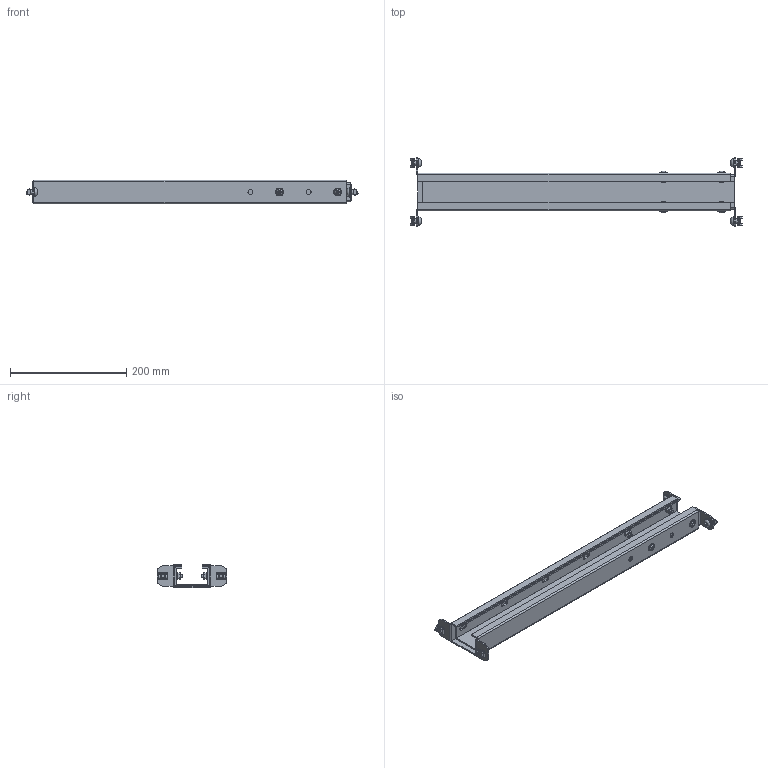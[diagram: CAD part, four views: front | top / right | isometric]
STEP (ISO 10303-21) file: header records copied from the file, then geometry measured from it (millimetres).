
FILE_DESCRIPTION(/* description */ ('Unknown'),/* implementation_level */ '2;1');
FILE_NAME(/* name */ '127.00631_01-550mm',/* time_stamp */ '2025-03-27T10:58:36+01:00',/* author */ ('Unknown'),/* organization */ ('Unknown'),/* preprocessor_version */ 'ST-DEVELOPER v20',/* originating_system */ 'Solid Edge',/* authorisation */ 'Unknown');
FILE_SCHEMA (('AUTOMOTIVE_DESIGN {1 0 10303 214 3 1 1}'));
Length unit declared in the file: millimetre
Products named in the file (9): 127.00631; 096599_2; 096600_2; Sechskantmutter M6 DIN 934; Scheibe Ø6,4 DIN 125; Halbrundkopfschraube mit Innensechskant M8x12 ISO 7380-1; Scheibe Ø8,4 DIN 125; Nutenstein M8_montiert; Halbrundkopfschraube mit Innensechskant und Bund M6x16 ISO 7380-2
Assembly tree (26 placements, depth 2):
  127.00631
    096599_2
    096600_2
    Sechskantmutter M6 DIN 934  x4
    Scheibe Ø6,4 DIN 125  x4
    Halbrundkopfschraube mit Innensechskant M8x12 ISO 7380-1  x4
    Scheibe Ø8,4 DIN 125  x4
    Nutenstein M8_montiert  x4
    Halbrundkopfschraube mit Innensechskant und Bund M6x16 ISO 7380-2  x4
Bounding box: 571 x 120 x 40 mm (x, y, z)
Volume: 418379.4 mm3; surface area: 347375.8 mm2
Topology: 26 solids, 26 shells, 828 faces, 2158 edges, 1394 vertices
Faces by surface type: plane 408, cylinder 276, torus 72, bspline 48, cone 20, sphere 4
Full cylindrical faces by diameter (mm): 6 x8, 6.4 x4, 6.647 x4, 8 x4, 8.5 x16, 12 x4, 13.6 x4, 14 x4, 16.8 x4
Entity records: 11194 total; most frequent: CARTESIAN_POINT 2555, ORIENTED_EDGE 1618, DIRECTION 1610, EDGE_CURVE 809, AXIS2_PLACEMENT_3D 565, VERTEX_POINT 545, LINE 480, VECTOR 480
